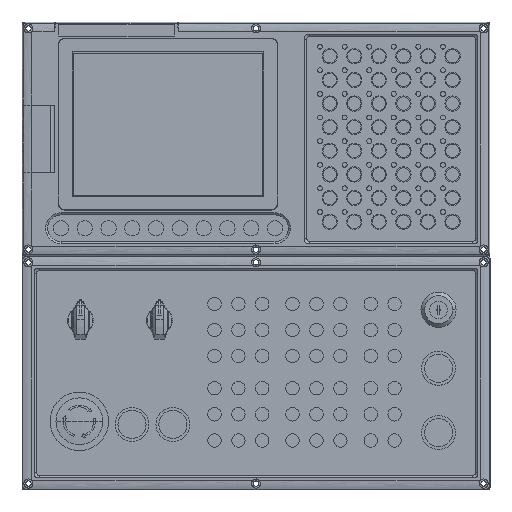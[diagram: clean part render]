
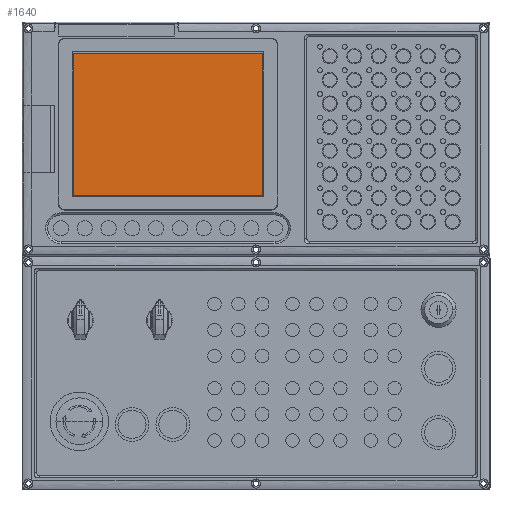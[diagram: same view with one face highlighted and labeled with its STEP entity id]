
A CAD part, top view. The second image highlights one B-rep face of the part: STEP entity #1640.
In plain terms, the highlighted planar face has unit normal (0, 0, 1).
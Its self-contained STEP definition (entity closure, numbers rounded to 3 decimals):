
#1640 = ADVANCED_FACE ( 'NONE', ( #24708 ), #84876, .T. ) ;
#3376 = VECTOR ( 'NONE', #112915, 1000. ) ;
#10806 = VECTOR ( 'NONE', #108225, 1000. ) ;
#14148 = CARTESIAN_POINT ( 'NONE',  ( -163.7, 80.9, 1.82 ) ) ;
#20568 = CARTESIAN_POINT ( 'NONE',  ( -163.7, 73.4, 1.82 ) ) ;
#20598 = EDGE_CURVE ( 'NONE', #30306, #58465, #35585, .T. ) ;
#24302 = DIRECTION ( 'NONE',  ( 0., 0., 1. ) ) ;
#24708 = FACE_OUTER_BOUND ( 'NONE', #64588, .T. ) ;
#30221 = LINE ( 'NONE', #31468, #3376 ) ;
#30306 = VERTEX_POINT ( 'NONE', #82223 ) ;
#31468 = CARTESIAN_POINT ( 'NONE',  ( -163.7, -48.1, 1.82 ) ) ;
#35585 = LINE ( 'NONE', #20568, #116356 ) ;
#38116 = LINE ( 'NONE', #108465, #118852 ) ;
#47800 = DIRECTION ( 'NONE',  ( 0., 1., 0. ) ) ;
#51055 = AXIS2_PLACEMENT_3D ( 'NONE', #14148, #24302, #95117 ) ;
#58465 = VERTEX_POINT ( 'NONE', #70624 ) ;
#63567 = VERTEX_POINT ( 'NONE', #95684 ) ;
#64588 = EDGE_LOOP ( 'NONE', ( #75748, #83475, #105638, #107027 ) ) ;
#68205 = EDGE_CURVE ( 'NONE', #58465, #84683, #70873, .T. ) ;
#70624 = CARTESIAN_POINT ( 'NONE',  ( 5.8, 73.4, 1.82 ) ) ;
#70873 = LINE ( 'NONE', #98020, #10806 ) ;
#75748 = ORIENTED_EDGE ( 'NONE', *, *, #110016, .F. ) ;
#82223 = CARTESIAN_POINT ( 'NONE',  ( -156.2, 73.4, 1.82 ) ) ;
#82620 = EDGE_CURVE ( 'NONE', #84683, #63567, #30221, .T. ) ;
#83475 = ORIENTED_EDGE ( 'NONE', *, *, #82620, .F. ) ;
#84683 = VERTEX_POINT ( 'NONE', #117089 ) ;
#84876 = PLANE ( 'NONE',  #51055 ) ;
#91378 = DIRECTION ( 'NONE',  ( 1., 0., 0. ) ) ;
#95117 = DIRECTION ( 'NONE',  ( 1., 0., 0. ) ) ;
#95684 = CARTESIAN_POINT ( 'NONE',  ( -156.2, -48.1, 1.82 ) ) ;
#98020 = CARTESIAN_POINT ( 'NONE',  ( 5.8, 80.9, 1.82 ) ) ;
#105638 = ORIENTED_EDGE ( 'NONE', *, *, #68205, .F. ) ;
#107027 = ORIENTED_EDGE ( 'NONE', *, *, #20598, .F. ) ;
#108225 = DIRECTION ( 'NONE',  ( 0., -1., 0. ) ) ;
#108465 = CARTESIAN_POINT ( 'NONE',  ( -156.2, 80.9, 1.82 ) ) ;
#110016 = EDGE_CURVE ( 'NONE', #63567, #30306, #38116, .T. ) ;
#112915 = DIRECTION ( 'NONE',  ( -1., 0., 0. ) ) ;
#116356 = VECTOR ( 'NONE', #91378, 1000. ) ;
#117089 = CARTESIAN_POINT ( 'NONE',  ( 5.8, -48.1, 1.82 ) ) ;
#118852 = VECTOR ( 'NONE', #47800, 1000. ) ;
